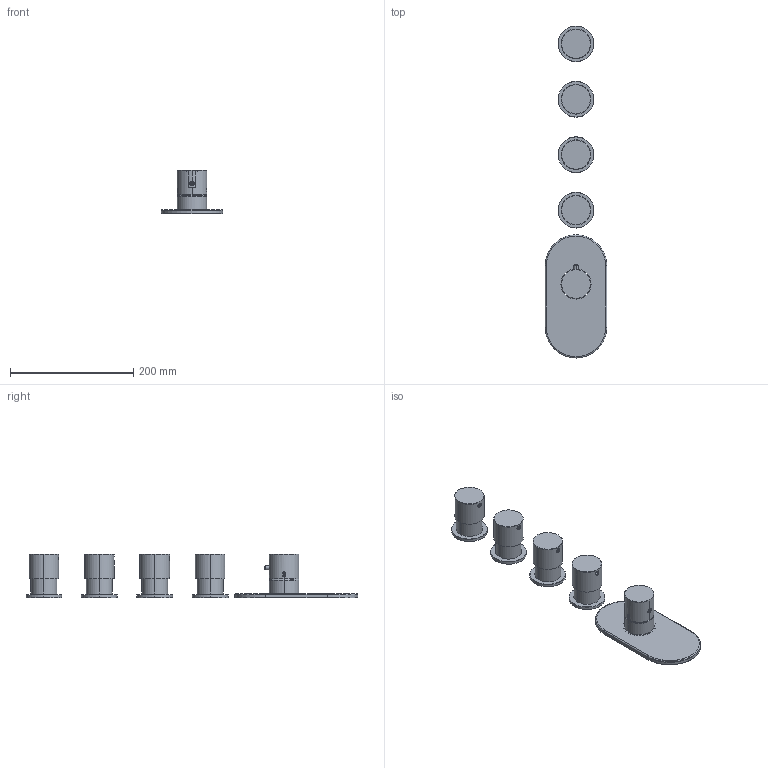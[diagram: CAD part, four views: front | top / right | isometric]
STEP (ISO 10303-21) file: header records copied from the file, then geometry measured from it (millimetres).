
FILE_DESCRIPTION((''),'2;1');
FILE_NAME('F3253X4_FILE_3D','2019-04-16T',('ivanv'),(''),'CREO PARAMETRIC BY PTC INC, 2016260','CREO PARAMETRIC BY PTC INC, 2016260','');
FILE_SCHEMA(('CONFIG_CONTROL_DESIGN'));
Length unit declared in the file: millimetre
Products named in the file (1): F3253X4_FILE_3D
Bounding box: 100 x 539 x 71 mm (x, y, z)
Volume: 192655.3 mm3; surface area: 197033.9 mm2
Topology: 12 solids, 16 shells, 2914 faces, 7867 edges, 5082 vertices
Faces by surface type: plane 1535, cylinder 507, extrusion 395, cone 162, bspline 143, torus 136, sphere 36
Entity records: 152891 total; most frequent: CARTESIAN_POINT 83605, ORIENTED_EDGE 15722, DIRECTION 11998, EDGE_CURVE 7861, VERTEX_POINT 5082, VECTOR 4696, LINE 4301, AXIS2_PLACEMENT_3D 3651
